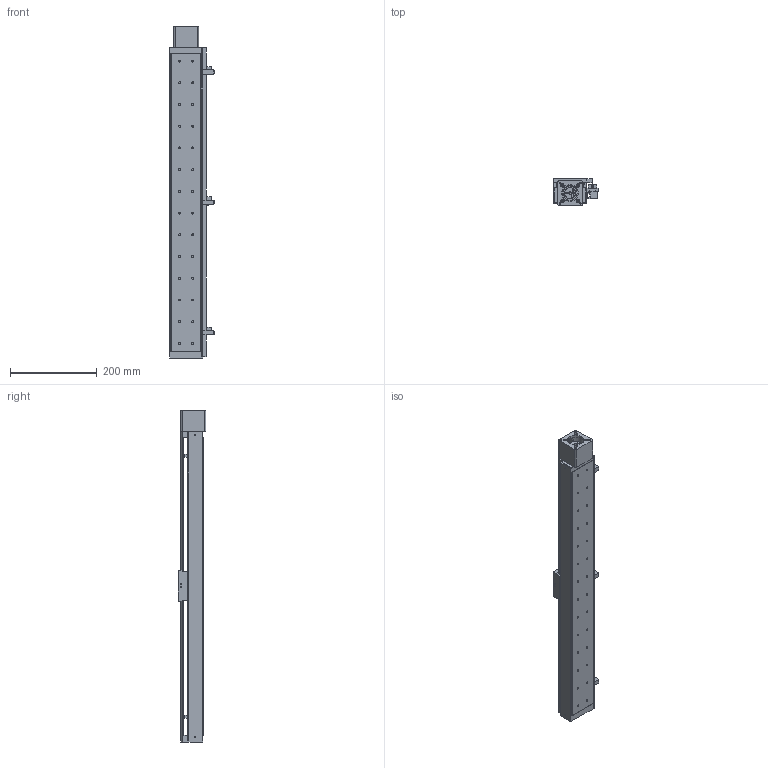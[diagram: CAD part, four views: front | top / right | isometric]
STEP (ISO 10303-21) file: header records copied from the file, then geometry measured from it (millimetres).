
FILE_DESCRIPTION((''),'2;1');
FILE_NAME('E:\uia actuator\UIA actuator 3d- 2009\Standard ball screw actuator\UIA076R9DC\UIA076R9DC-STEP file\with motor mount\UIA076R9DC step file 18Apr16\UIA076R9DC-600-R1205(or R1210)-M23-P13-C10-S.stp','2016-04-20T09:39:25',('h029'),(''),'Autodesk Inventor 11','Autodesk Inventor 11','');
FILE_SCHEMA(('AUTOMOTIVE_DESIGN { 1 0 10303 214 1 1 1 1 }'));
Length unit declared in the file: millimetre
Products named in the file (10): UIA076R9DC-600-R1205(or R1210)-M23-P13-C10-S; UIA076R9DC-600-BODY; UIA076R9DC-600-sensor rail; UIA076R9DC-CARRIAGE; UIA076R9DC-SENSOR FLAG; 01-100 0110 Motor MOUNT-M23; SOH-25C; SOH-25C-2; SOH-25C-3; SOH-25C-1
Assembly tree (9 placements, depth 3):
  UIA076R9DC-600-R1205(or R1210)-M23-P13-C10-S
    UIA076R9DC-600-BODY
    UIA076R9DC-600-sensor rail
    UIA076R9DC-CARRIAGE
    UIA076R9DC-SENSOR FLAG
    01-100 0110 Motor MOUNT-M23
    SOH-25C
      SOH-25C-2
      SOH-25C-3
      SOH-25C-1
Bounding box: 103 x 63 x 764.2 mm (x, y, z)
Volume: 1091323.7 mm3; surface area: 446704.9 mm2
Topology: 8 solids, 8 shells, 464 faces, 1263 edges, 832 vertices
Faces by surface type: plane 303, cylinder 133, cone 21, bspline 7
Full cylindrical faces by diameter (mm): 2.459 x8, 3 x2, 3.242 x16, 3.5 x4, 4 x6, 4.5 x32, 6 x2, 7.5 x32, 22 x1, 25.5 x3, 32 x1, 37 x1, 38.1 x1
Entity records: 14466 total; most frequent: CARTESIAN_POINT 2820, DIRECTION 2330, ORIENTED_EDGE 2160, EDGE_CURVE 1080, AXIS2_PLACEMENT_3D 785, VERTEX_POINT 785, VECTOR 760, LINE 760
